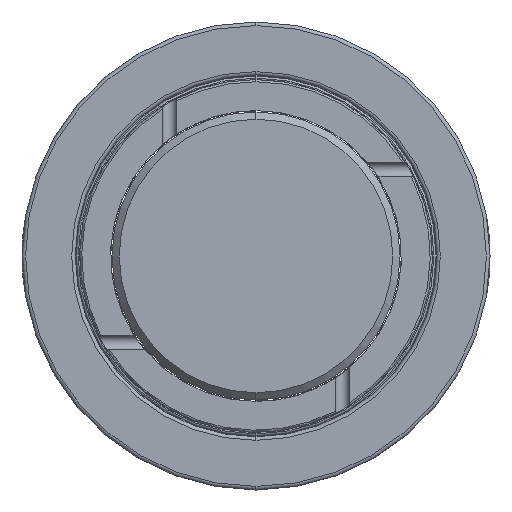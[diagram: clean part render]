
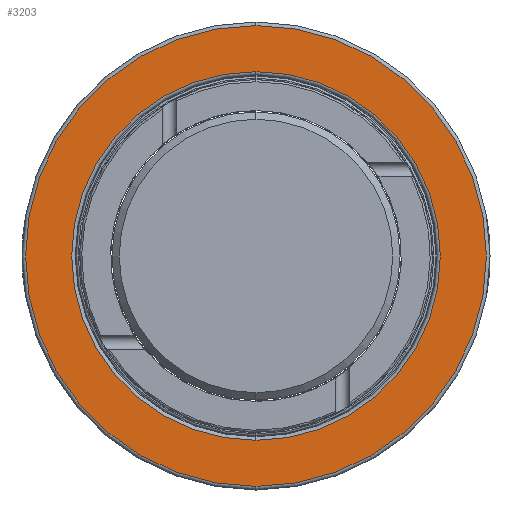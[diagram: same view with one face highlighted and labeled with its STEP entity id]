
A CAD part, left-side view. The second image highlights one B-rep face of the part: STEP entity #3203.
In plain terms, the highlighted planar face has unit normal (-1, 0, 0).
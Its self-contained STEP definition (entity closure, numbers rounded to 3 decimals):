
#125 = ORIENTED_EDGE ( 'NONE', *, *, #319, .T. ) ;
#229 = VERTEX_POINT ( 'NONE', #6541 ) ;
#319 = EDGE_CURVE ( 'NONE', #3140, #6707, #4040, .T. ) ;
#667 = EDGE_LOOP ( 'NONE', ( #3300, #1643 ) ) ;
#938 = DIRECTION ( 'NONE',  ( -1., 0., 0. ) ) ;
#1049 = CARTESIAN_POINT ( 'NONE',  ( 0., 0., 25.6 ) ) ;
#1313 = DIRECTION ( 'NONE',  ( 0., 0., -1. ) ) ;
#1383 = EDGE_CURVE ( 'NONE', #5546, #229, #5397, .T. ) ;
#1395 = DIRECTION ( 'NONE',  ( 1., 0., 0. ) ) ;
#1468 = DIRECTION ( 'NONE',  ( 0., 0., -1. ) ) ;
#1643 = ORIENTED_EDGE ( 'NONE', *, *, #2130, .T. ) ;
#1709 = DIRECTION ( 'NONE',  ( 1., 0., 0. ) ) ;
#1978 = DIRECTION ( 'NONE',  ( 1., 0., 0. ) ) ;
#2130 = EDGE_CURVE ( 'NONE', #229, #5546, #4015, .T. ) ;
#2447 = AXIS2_PLACEMENT_3D ( 'NONE', #5884, #1709, #2702 ) ;
#2599 = CARTESIAN_POINT ( 'NONE',  ( 0., 0., -32. ) ) ;
#2702 = DIRECTION ( 'NONE',  ( 0., 0., -1. ) ) ;
#2772 = AXIS2_PLACEMENT_3D ( 'NONE', #5144, #1978, #5668 ) ;
#3137 = AXIS2_PLACEMENT_3D ( 'NONE', #4116, #938, #1468 ) ;
#3140 = VERTEX_POINT ( 'NONE', #4223 ) ;
#3203 = ADVANCED_FACE ( 'NONE', ( #5375, #4002 ), #5860, .F. ) ;
#3300 = ORIENTED_EDGE ( 'NONE', *, *, #1383, .T. ) ;
#4002 = FACE_OUTER_BOUND ( 'NONE', #667, .T. ) ;
#4015 = CIRCLE ( 'NONE', #3137, 32. ) ;
#4040 = CIRCLE ( 'NONE', #4987, 25.6 ) ;
#4116 = CARTESIAN_POINT ( 'NONE',  ( 0., 0., 0. ) ) ;
#4223 = CARTESIAN_POINT ( 'NONE',  ( 0., 0., -25.6 ) ) ;
#4473 = CIRCLE ( 'NONE', #2772, 25.6 ) ;
#4523 = DIRECTION ( 'NONE',  ( -1., 0., 0. ) ) ;
#4948 = AXIS2_PLACEMENT_3D ( 'NONE', #4960, #4523, #1313 ) ;
#4960 = CARTESIAN_POINT ( 'NONE',  ( 0., 0., 0. ) ) ;
#4987 = AXIS2_PLACEMENT_3D ( 'NONE', #5586, #1395, #6606 ) ;
#5144 = CARTESIAN_POINT ( 'NONE',  ( 0., 0., 0. ) ) ;
#5375 = FACE_BOUND ( 'NONE', #6444, .T. ) ;
#5397 = CIRCLE ( 'NONE', #4948, 32. ) ;
#5546 = VERTEX_POINT ( 'NONE', #2599 ) ;
#5586 = CARTESIAN_POINT ( 'NONE',  ( 0., 0., 0. ) ) ;
#5668 = DIRECTION ( 'NONE',  ( 0., 0., -1. ) ) ;
#5740 = ORIENTED_EDGE ( 'NONE', *, *, #6271, .T. ) ;
#5860 = PLANE ( 'NONE',  #2447 ) ;
#5884 = CARTESIAN_POINT ( 'NONE',  ( 0., 0., 0. ) ) ;
#6271 = EDGE_CURVE ( 'NONE', #6707, #3140, #4473, .T. ) ;
#6444 = EDGE_LOOP ( 'NONE', ( #125, #5740 ) ) ;
#6541 = CARTESIAN_POINT ( 'NONE',  ( 0., 0., 32. ) ) ;
#6606 = DIRECTION ( 'NONE',  ( 0., 0., -1. ) ) ;
#6707 = VERTEX_POINT ( 'NONE', #1049 ) ;
